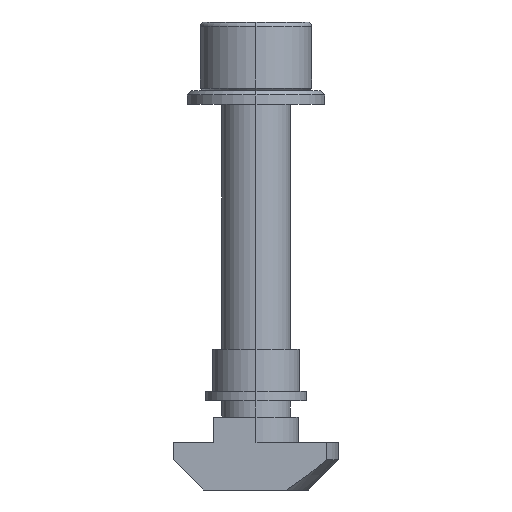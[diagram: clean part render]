
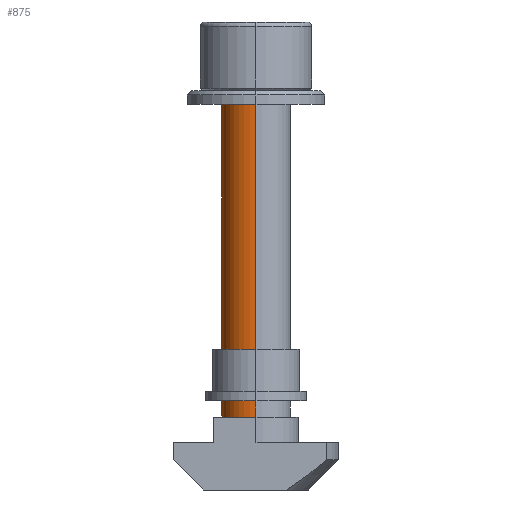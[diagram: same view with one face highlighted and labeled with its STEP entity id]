
A CAD part, left-side view. The second image highlights one B-rep face of the part: STEP entity #875.
In plain terms, the highlighted cylindrical face has radius 4 mm (diameter 8 mm), a partial arc.
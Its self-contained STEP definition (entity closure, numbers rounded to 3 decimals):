
#11 = CARTESIAN_POINT ( 'NONE',  ( -73.045, 4., 1.878 ) ) ;
#42 = VECTOR ( 'NONE', #1321, 1000. ) ;
#161 = EDGE_LOOP ( 'NONE', ( #997, #537, #3621, #636 ) ) ;
#188 = EDGE_CURVE ( 'NONE', #2683, #979, #1528, .T. ) ;
#271 = CARTESIAN_POINT ( 'NONE',  ( -72.964, 4., 1.864 ) ) ;
#280 = CARTESIAN_POINT ( 'NONE',  ( -72.961, 4., 1.932 ) ) ;
#281 = CARTESIAN_POINT ( 'NONE',  ( -73.036, 4., 1.935 ) ) ;
#294 = CARTESIAN_POINT ( 'NONE',  ( -73.039, 4., 1.868 ) ) ;
#322 = EDGE_CURVE ( 'NONE', #2683, #1468, #3511, .T. ) ;
#337 = CIRCLE ( 'NONE', #3377, 4. ) ;
#379 = FACE_BOUND ( 'NONE', #1351, .T. ) ;
#514 = CARTESIAN_POINT ( 'NONE',  ( -73., 4., 1.85 ) ) ;
#537 = ORIENTED_EDGE ( 'NONE', *, *, #2660, .T. ) ;
#542 = CARTESIAN_POINT ( 'NONE',  ( -72.958, 4., 1.873 ) ) ;
#556 = CARTESIAN_POINT ( 'NONE',  ( -72.969, 4., 1.939 ) ) ;
#558 = CARTESIAN_POINT ( 'NONE',  ( -73.043, 4., 1.926 ) ) ;
#570 = CARTESIAN_POINT ( 'NONE',  ( -73.031, 4., 1.86 ) ) ;
#636 = ORIENTED_EDGE ( 'NONE', *, *, #322, .F. ) ;
#649 = B_SPLINE_CURVE_WITH_KNOTS ( 'NONE', 3,
 ( #3067, #1098, #1380, #3356, #1665, #3630, #1938, #271, #2221, #542, #2513, #820, #2788, #1105, #3081, #1393, #3365, #1673, #3641, #1956, #280, #2235, #556, #2525, #832, #2797, #1122, #3092, #1404, #3373, #1686 ),
 .UNSPECIFIED., .F., .F.,
 ( 4, 3, 3, 3, 3, 3, 3, 3, 3, 3, 4 ),
 ( 0., 0., 0., 0., 0., 0., 0., 0., 0., 0., 0. ),
 .UNSPECIFIED. ) ;
#809 = VERTEX_POINT ( 'NONE', #514 ) ;
#820 = CARTESIAN_POINT ( 'NONE',  ( -72.952, 4., 1.884 ) ) ;
#822 = CARTESIAN_POINT ( 'NONE',  ( -73., 4., 1.95 ) ) ;
#832 = CARTESIAN_POINT ( 'NONE',  ( -72.979, 4., 1.945 ) ) ;
#833 = CARTESIAN_POINT ( 'NONE',  ( -73.047, 4., 1.916 ) ) ;
#841 = CARTESIAN_POINT ( 'NONE',  ( -73.021, 4., 1.854 ) ) ;
#875 = ADVANCED_FACE ( 'NONE', ( #379, #1213 ), #1691, .T. ) ;
#907 = DIRECTION ( 'NONE',  ( 0., 0., 1. ) ) ;
#917 = CARTESIAN_POINT ( 'NONE',  ( -77., 0., -3. ) ) ;
#979 = VERTEX_POINT ( 'NONE', #917 ) ;
#997 = ORIENTED_EDGE ( 'NONE', *, *, #188, .T. ) ;
#1035 = B_SPLINE_CURVE_WITH_KNOTS ( 'NONE', 3,
 ( #822, #1107, #3083, #1394, #3367, #1674, #3644, #1957, #281, #2236, #558, #2527, #833, #2799, #1123, #3093, #1405, #3374, #1689, #11, #1966, #294, #2249, #570, #2539, #841, #2811, #1136, #3106, #1411, #3389 ),
 .UNSPECIFIED., .F., .F.,
 ( 4, 3, 3, 3, 3, 3, 3, 3, 3, 3, 4 ),
 ( 0., 0., 0., 0., 0., 0., 0., 0., 0., 0., 0. ),
 .UNSPECIFIED. ) ;
#1098 = CARTESIAN_POINT ( 'NONE',  ( -72.994, 4., 1.85 ) ) ;
#1105 = CARTESIAN_POINT ( 'NONE',  ( -72.95, 4., 1.894 ) ) ;
#1107 = CARTESIAN_POINT ( 'NONE',  ( -73.004, 4., 1.95 ) ) ;
#1122 = CARTESIAN_POINT ( 'NONE',  ( -72.989, 4., 1.949 ) ) ;
#1123 = CARTESIAN_POINT ( 'NONE',  ( -73.05, 4., 1.905 ) ) ;
#1136 = CARTESIAN_POINT ( 'NONE',  ( -73.01, 4., 1.851 ) ) ;
#1187 = DIRECTION ( 'NONE',  ( 0., 0., 1. ) ) ;
#1213 = FACE_OUTER_BOUND ( 'NONE', #161, .T. ) ;
#1320 = EDGE_CURVE ( 'NONE', #1468, #2623, #337, .T. ) ;
#1321 = DIRECTION ( 'NONE',  ( 0., 0., 1. ) ) ;
#1336 = CARTESIAN_POINT ( 'NONE',  ( -69., 0., 35. ) ) ;
#1351 = EDGE_LOOP ( 'NONE', ( #2746, #2258 ) ) ;
#1380 = CARTESIAN_POINT ( 'NONE',  ( -72.989, 4., 1.851 ) ) ;
#1393 = CARTESIAN_POINT ( 'NONE',  ( -72.95, 4., 1.906 ) ) ;
#1394 = CARTESIAN_POINT ( 'NONE',  ( -73.011, 4., 1.949 ) ) ;
#1404 = CARTESIAN_POINT ( 'NONE',  ( -72.996, 4., 1.95 ) ) ;
#1405 = CARTESIAN_POINT ( 'NONE',  ( -73.05, 4., 1.894 ) ) ;
#1411 = CARTESIAN_POINT ( 'NONE',  ( -73.004, 4., 1.85 ) ) ;
#1468 = VERTEX_POINT ( 'NONE', #1336 ) ;
#1526 = LINE ( 'NONE', #3297, #42 ) ;
#1528 = CIRCLE ( 'NONE', #2129, 4. ) ;
#1536 = CARTESIAN_POINT ( 'NONE',  ( -73., 4., 1.95 ) ) ;
#1601 = CARTESIAN_POINT ( 'NONE',  ( -69., 0., -3. ) ) ;
#1665 = CARTESIAN_POINT ( 'NONE',  ( -72.978, 4., 1.855 ) ) ;
#1673 = CARTESIAN_POINT ( 'NONE',  ( -72.953, 4., 1.917 ) ) ;
#1674 = CARTESIAN_POINT ( 'NONE',  ( -73.022, 4., 1.945 ) ) ;
#1686 = CARTESIAN_POINT ( 'NONE',  ( -73., 4., 1.95 ) ) ;
#1689 = CARTESIAN_POINT ( 'NONE',  ( -73.047, 4., 1.883 ) ) ;
#1691 = CYLINDRICAL_SURFACE ( 'NONE', #3126, 4. ) ;
#1778 = CARTESIAN_POINT ( 'NONE',  ( -69., 0., -10. ) ) ;
#1836 = CARTESIAN_POINT ( 'NONE',  ( -77., 0., 35. ) ) ;
#1838 = VECTOR ( 'NONE', #3202, 1000. ) ;
#1938 = CARTESIAN_POINT ( 'NONE',  ( -72.969, 4., 1.861 ) ) ;
#1948 = CARTESIAN_POINT ( 'NONE',  ( -73., 0., -10. ) ) ;
#1956 = CARTESIAN_POINT ( 'NONE',  ( -72.958, 4., 1.927 ) ) ;
#1957 = CARTESIAN_POINT ( 'NONE',  ( -73.032, 4., 1.939 ) ) ;
#1966 = CARTESIAN_POINT ( 'NONE',  ( -73.042, 4., 1.873 ) ) ;
#2129 = AXIS2_PLACEMENT_3D ( 'NONE', #2861, #1187, #2586 ) ;
#2205 = VERTEX_POINT ( 'NONE', #1536 ) ;
#2221 = CARTESIAN_POINT ( 'NONE',  ( -72.961, 4., 1.869 ) ) ;
#2228 = DIRECTION ( 'NONE',  ( 1., 0., 0. ) ) ;
#2235 = CARTESIAN_POINT ( 'NONE',  ( -72.965, 4., 1.936 ) ) ;
#2236 = CARTESIAN_POINT ( 'NONE',  ( -73.039, 4., 1.931 ) ) ;
#2249 = CARTESIAN_POINT ( 'NONE',  ( -73.035, 4., 1.864 ) ) ;
#2258 = ORIENTED_EDGE ( 'NONE', *, *, #3468, .T. ) ;
#2513 = CARTESIAN_POINT ( 'NONE',  ( -72.955, 4., 1.878 ) ) ;
#2525 = CARTESIAN_POINT ( 'NONE',  ( -72.974, 4., 1.943 ) ) ;
#2527 = CARTESIAN_POINT ( 'NONE',  ( -73.046, 4., 1.921 ) ) ;
#2539 = CARTESIAN_POINT ( 'NONE',  ( -73.026, 4., 1.857 ) ) ;
#2586 = DIRECTION ( 'NONE',  ( -1., 0., 0. ) ) ;
#2594 = CARTESIAN_POINT ( 'NONE',  ( -73., 0., 35. ) ) ;
#2623 = VERTEX_POINT ( 'NONE', #1836 ) ;
#2660 = EDGE_CURVE ( 'NONE', #979, #2623, #1526, .T. ) ;
#2683 = VERTEX_POINT ( 'NONE', #1601 ) ;
#2746 = ORIENTED_EDGE ( 'NONE', *, *, #3206, .T. ) ;
#2788 = CARTESIAN_POINT ( 'NONE',  ( -72.951, 4., 1.889 ) ) ;
#2797 = CARTESIAN_POINT ( 'NONE',  ( -72.984, 4., 1.948 ) ) ;
#2799 = CARTESIAN_POINT ( 'NONE',  ( -73.049, 4., 1.911 ) ) ;
#2811 = CARTESIAN_POINT ( 'NONE',  ( -73.016, 4., 1.852 ) ) ;
#2861 = CARTESIAN_POINT ( 'NONE',  ( -73., 0., -3. ) ) ;
#2877 = DIRECTION ( 'NONE',  ( 1., 0., 0. ) ) ;
#3067 = CARTESIAN_POINT ( 'NONE',  ( -73., 4., 1.85 ) ) ;
#3081 = CARTESIAN_POINT ( 'NONE',  ( -72.95, 4., 1.9 ) ) ;
#3083 = CARTESIAN_POINT ( 'NONE',  ( -73.008, 4., 1.95 ) ) ;
#3092 = CARTESIAN_POINT ( 'NONE',  ( -72.995, 4., 1.95 ) ) ;
#3093 = CARTESIAN_POINT ( 'NONE',  ( -73.05, 4., 1.899 ) ) ;
#3106 = CARTESIAN_POINT ( 'NONE',  ( -73.007, 4., 1.85 ) ) ;
#3126 = AXIS2_PLACEMENT_3D ( 'NONE', #1948, #3372, #2228 ) ;
#3202 = DIRECTION ( 'NONE',  ( 0., 0., 1. ) ) ;
#3206 = EDGE_CURVE ( 'NONE', #809, #2205, #649, .T. ) ;
#3297 = CARTESIAN_POINT ( 'NONE',  ( -77., 0., -10. ) ) ;
#3356 = CARTESIAN_POINT ( 'NONE',  ( -72.983, 4., 1.853 ) ) ;
#3365 = CARTESIAN_POINT ( 'NONE',  ( -72.951, 4., 1.911 ) ) ;
#3367 = CARTESIAN_POINT ( 'NONE',  ( -73.017, 4., 1.947 ) ) ;
#3372 = DIRECTION ( 'NONE',  ( 0., 0., 1. ) ) ;
#3373 = CARTESIAN_POINT ( 'NONE',  ( -72.998, 4., 1.95 ) ) ;
#3374 = CARTESIAN_POINT ( 'NONE',  ( -73.049, 4., 1.888 ) ) ;
#3377 = AXIS2_PLACEMENT_3D ( 'NONE', #2594, #907, #2877 ) ;
#3389 = CARTESIAN_POINT ( 'NONE',  ( -73., 4., 1.85 ) ) ;
#3468 = EDGE_CURVE ( 'NONE', #2205, #809, #1035, .T. ) ;
#3511 = LINE ( 'NONE', #1778, #1838 ) ;
#3621 = ORIENTED_EDGE ( 'NONE', *, *, #1320, .F. ) ;
#3630 = CARTESIAN_POINT ( 'NONE',  ( -72.973, 4., 1.857 ) ) ;
#3641 = CARTESIAN_POINT ( 'NONE',  ( -72.955, 4., 1.922 ) ) ;
#3644 = CARTESIAN_POINT ( 'NONE',  ( -73.027, 4., 1.942 ) ) ;
